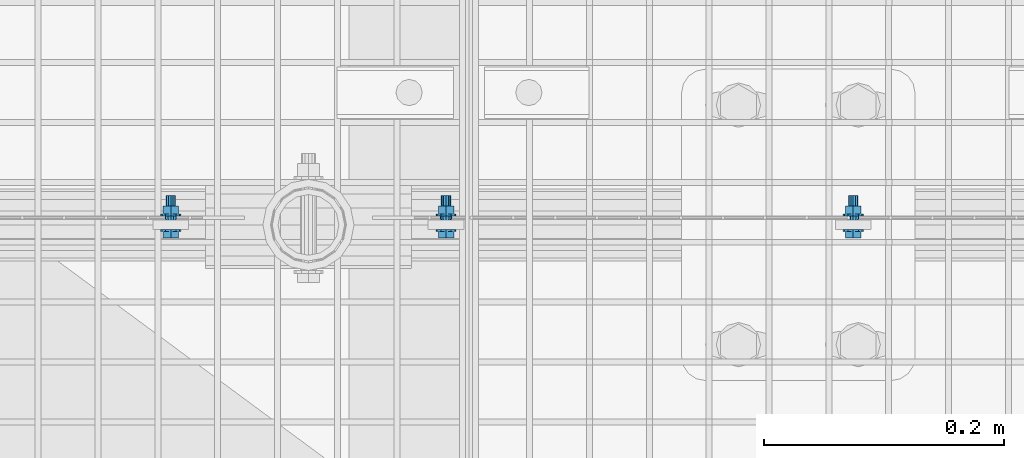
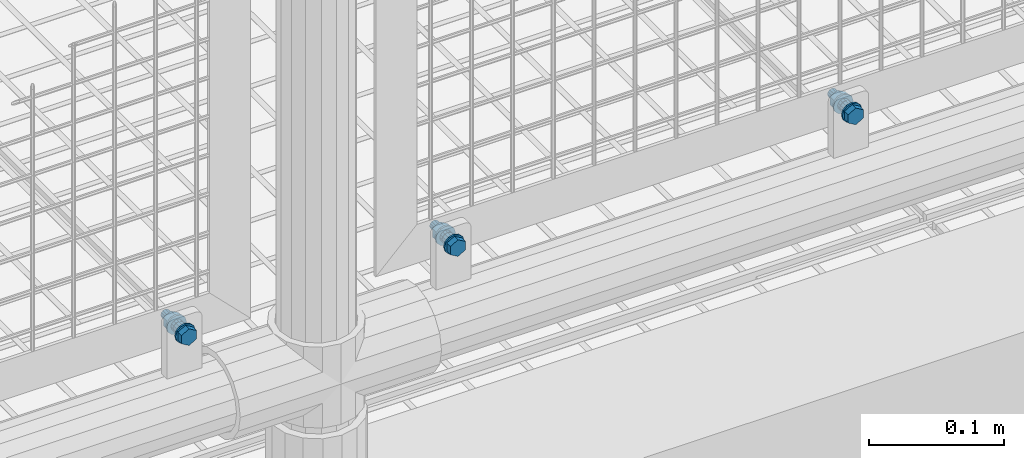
# One storey, part 73 of 1530: 3 mechanical fasteners.
"""IFC2X3 building model written with IfcOpenShell, lengths in millimetres."""

from ifc_helpers import new_model, si_unit, frame, origin_with_axes, place, context, subcontext, project, spatial, faceted_brep, source, transform, mapped, material, type_object, element, save


model = new_model("IFC2X3")

# Units and contexts
model_context = context("Model", 3, precision=1e-05, world=origin_with_axes())
body_context = subcontext(model_context, "Body", "Model", "MODEL_VIEW")
ifc_project = project(units=[si_unit("LENGTHUNIT", "METRE", prefix="MILLI"), si_unit("AREAUNIT", "SQUARE_METRE"), si_unit("VOLUMEUNIT", "CUBIC_METRE"), si_unit("MASSUNIT", "GRAM", prefix="KILO"), si_unit("TIMEUNIT", "SECOND"), si_unit("PLANEANGLEUNIT", "RADIAN"), si_unit("SOLIDANGLEUNIT", "STERADIAN"), si_unit("THERMODYNAMICTEMPERATUREUNIT", "DEGREE_CELSIUS"), si_unit("LUMINOUSINTENSITYUNIT", "LUMEN")], contexts=[model_context])

# Site, building, storey
site_placement = place(None, origin_with_axes())
site = spatial("IfcSite", under=ifc_project, at=site_placement, Name="Brattvåg", CompositionType="ELEMENT")
building_placement = place(site_placement, origin_with_axes())
building = spatial("IfcBuilding", under=site, at=building_placement, Name="Undefined", CompositionType="ELEMENT")
storey_placement = place(building_placement, origin_with_axes())
storey = spatial("IfcBuildingStorey", under=building, at=storey_placement, Name="Undefined", CompositionType="ELEMENT", Elevation=0.0)

# Mechanical fasteners
ifc_material = material(Name="8")
mechanical_fastener_type = type_object("IfcMechanicalFastenerType", Name="Bolt assembly")
shared_shape_1 = source(origin_with_axes(), body_context, "Body", "Brep", [
    faceted_brep([(7.50555349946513, -6.899000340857, 0.0), (3.75277674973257, -6.899000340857, 6.5), (-3.75277674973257, -6.899000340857, 6.5), (-7.50555349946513, -6.899000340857, 9.19165206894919e-16), (-3.75277674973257, -6.899000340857, -6.5), (3.75277674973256, -6.899000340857, -6.5), (3.75277674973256, -1.59900015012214, -6.5), (-3.75277674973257, -1.59900015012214, -6.5), (-7.50555349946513, -1.59900015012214, 9.19165206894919e-16), (-3.75277674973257, -1.59900015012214, 6.5), (3.75277674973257, -1.59900015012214, 6.5), (7.50555349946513, -1.59900015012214, 0.0), (4.0, -1.59900015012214, 0.0), (3.46410161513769, -1.59900015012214, 2.00000000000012), (1.99999999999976, -1.59900015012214, 3.46410161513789), (-4.14534392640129e-13, -1.59900015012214, 4.0), (-2.00000000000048, -1.59900015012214, 3.46410161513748), (-3.4641016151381, -1.59900015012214, 1.9999999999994), (-4.0, -1.59900015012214, -8.29068785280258e-13), (-3.46410161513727, -1.59900015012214, -2.00000000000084), (-1.99999999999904, -1.59900015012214, -3.46410161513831), (1.23916228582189e-12, -1.59900015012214, -4.0), (2.00000000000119, -1.59900015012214, -3.46410161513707), (3.46410161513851, -1.59900015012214, -1.99999999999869), (3.46410161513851, 28.4009998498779, -1.99999999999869), (2.00000000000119, 28.4009998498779, -3.46410161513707), (1.23916228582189e-12, 28.4009998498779, -4.0), (-1.99999999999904, 28.4009998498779, -3.46410161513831), (-3.46410161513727, 28.4009998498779, -2.00000000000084), (-4.0, 28.4009998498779, -8.29068785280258e-13), (-3.4641016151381, 28.4009998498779, 1.9999999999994), (-2.00000000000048, 28.4009998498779, 3.46410161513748), (-4.14534392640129e-13, 28.4009998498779, 4.0), (1.99999999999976, 28.4009998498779, 3.46410161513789), (3.46410161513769, 28.4009998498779, 2.00000000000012), (4.0, 28.4009998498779, 0.0), (8.5, -1.59900015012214, 0.0), (7.36121593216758, -1.59900015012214, 4.25000000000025), (4.24999999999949, -1.59900015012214, 7.36121593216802), (-8.80885584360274e-13, -1.59900015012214, 8.5), (-4.25000000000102, -1.59900015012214, 7.36121593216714), (-7.36121593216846, -1.59900015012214, 4.24999999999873), (-8.5, -1.59900015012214, -1.76177116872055e-12), (-7.3612159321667, -1.59900015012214, -4.25000000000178), (-4.24999999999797, -1.59900015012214, -7.3612159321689), (2.63321985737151e-12, -1.59900015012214, -8.5), (4.25000000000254, -1.59900015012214, -7.36121593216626), (7.36121593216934, -1.59900015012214, -4.24999999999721), (7.36121593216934, 0.000999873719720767, -4.24999999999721), (4.25000000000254, 0.000999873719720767, -7.36121593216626), (2.63321985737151e-12, 0.000999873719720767, -8.5), (-4.24999999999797, 0.000999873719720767, -7.3612159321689), (-7.3612159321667, 0.000999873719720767, -4.25000000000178), (-8.5, 0.000999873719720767, -1.76177116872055e-12), (-7.36121593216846, 0.000999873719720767, 4.24999999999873), (-4.25000000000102, 0.000999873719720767, 7.36121593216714), (-8.80885584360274e-13, 0.000999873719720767, 8.5), (4.24999999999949, 0.000999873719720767, 7.36121593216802), (7.36121593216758, 0.000999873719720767, 4.25000000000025), (8.5, 0.000999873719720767, 0.0), (8.5, 11.5044159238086, 0.0), (7.36121593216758, 11.5044159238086, 4.25000000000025), (4.24999999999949, 11.5044159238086, 7.36121593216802), (-8.80885584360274e-13, 11.5044159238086, 8.5), (-4.25000000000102, 11.5044159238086, 7.36121593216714), (-7.36121593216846, 11.5044159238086, 4.24999999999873), (-8.5, 11.5044159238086, -1.76177116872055e-12), (-7.3612159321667, 11.5044159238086, -4.25000000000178), (-4.24999999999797, 11.5044159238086, -7.3612159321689), (2.63321985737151e-12, 11.5044159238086, -8.5), (4.25000000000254, 11.5044159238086, -7.36121593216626), (7.36121593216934, 11.5044159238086, -4.24999999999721), (7.36121593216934, 13.1044159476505, -4.24999999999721), (4.25000000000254, 13.1044159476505, -7.36121593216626), (2.63321985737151e-12, 13.1044159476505, -8.5), (-4.24999999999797, 13.1044159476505, -7.3612159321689), (-7.3612159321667, 13.1044159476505, -4.25000000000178), (-8.5, 13.1044159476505, -1.76177116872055e-12), (-7.36121593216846, 13.1044159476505, 4.24999999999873), (-4.25000000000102, 13.1044159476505, 7.36121593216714), (-8.80885584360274e-13, 13.1044159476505, 8.5), (4.24999999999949, 13.1044159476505, 7.36121593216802), (7.36121593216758, 13.1044159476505, 4.25000000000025), (8.5, 13.1044159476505, 0.0), (7.50555349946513, 13.1044159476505, 0.0), (3.75277674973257, 13.1044159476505, 6.5), (-3.75277674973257, 13.1044159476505, 6.5), (-7.50555349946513, 13.1044159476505, 9.19165206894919e-16), (-3.75277674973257, 13.1044159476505, -6.5), (3.75277674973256, 13.1044159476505, -6.5), (3.75277674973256, 19.9044161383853, -6.5), (-3.75277674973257, 19.9044161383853, -6.5), (-7.50555349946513, 19.9044161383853, 9.19165206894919e-16), (-3.75277674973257, 19.9044161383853, 6.5), (3.75277674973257, 19.9044161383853, 6.5), (7.50555349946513, 19.9044161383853, 0.0)], [[[0, 1, 2, 3, 4, 5]], [[6, 7, 8, 9, 10, 11]], [[0, 11, 10, 1]], [[1, 10, 9, 2]], [[2, 9, 8, 3]], [[3, 8, 7, 4]], [[4, 7, 6, 5]], [[5, 6, 11, 0]], [[12, 13, 14, 15, 16, 17, 18, 19, 20, 21, 22, 23]], [[24, 25, 26, 27, 28, 29, 30, 31, 32, 33, 34, 35]], [[12, 35, 34, 13]], [[13, 34, 33, 14]], [[14, 33, 32, 15]], [[15, 32, 31, 16]], [[16, 31, 30, 17]], [[17, 30, 29, 18]], [[18, 29, 28, 19]], [[19, 28, 27, 20]], [[20, 27, 26, 21]], [[21, 26, 25, 22]], [[22, 25, 24, 23]], [[23, 24, 35, 12]], [[36, 37, 38, 39, 40, 41, 42, 43, 44, 45, 46, 47]], [[48, 49, 50, 51, 52, 53, 54, 55, 56, 57, 58, 59]], [[36, 59, 58, 37]], [[37, 58, 57, 38]], [[38, 57, 56, 39]], [[39, 56, 55, 40]], [[40, 55, 54, 41]], [[41, 54, 53, 42]], [[42, 53, 52, 43]], [[43, 52, 51, 44]], [[44, 51, 50, 45]], [[45, 50, 49, 46]], [[46, 49, 48, 47]], [[47, 48, 59, 36]], [[60, 61, 62, 63, 64, 65, 66, 67, 68, 69, 70, 71]], [[72, 73, 74, 75, 76, 77, 78, 79, 80, 81, 82, 83]], [[60, 83, 82, 61]], [[61, 82, 81, 62]], [[62, 81, 80, 63]], [[63, 80, 79, 64]], [[64, 79, 78, 65]], [[65, 78, 77, 66]], [[66, 77, 76, 67]], [[67, 76, 75, 68]], [[68, 75, 74, 69]], [[69, 74, 73, 70]], [[70, 73, 72, 71]], [[71, 72, 83, 60]], [[84, 85, 86, 87, 88, 89]], [[90, 91, 92, 93, 94, 95]], [[84, 95, 94, 85]], [[85, 94, 93, 86]], [[86, 93, 92, 87]], [[87, 92, 91, 88]], [[88, 91, 90, 89]], [[89, 90, 95, 84]]]),
    faceted_brep([(5.0, 0.100999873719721, 0.0), (4.33012701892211, 0.100999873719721, 2.50000000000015), (2.4999999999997, 0.100999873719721, 4.33012701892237), (-5.18167990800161e-13, 0.100999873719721, 5.0), (-2.5000000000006, 0.100999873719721, 4.33012701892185), (-4.33012701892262, 0.100999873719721, 2.49999999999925), (-5.0, 0.100999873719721, -1.03633598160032e-12), (-4.33012701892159, 0.100999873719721, -2.50000000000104), (-2.49999999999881, 0.100999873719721, -4.33012701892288), (1.54895285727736e-12, 0.100999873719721, -5.0), (2.50000000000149, 0.100999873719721, -4.33012701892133), (4.33012701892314, 0.100999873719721, -2.49999999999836), (4.33012701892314, 8.10099988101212, -2.49999999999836), (2.50000000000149, 8.10099988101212, -4.33012701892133), (1.54895285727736e-12, 8.10099988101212, -5.0), (-2.49999999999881, 8.10099988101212, -4.33012701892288), (-4.33012701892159, 8.10099988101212, -2.50000000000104), (-5.0, 8.10099988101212, -1.03633598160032e-12), (-4.33012701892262, 8.10099988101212, 2.49999999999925), (-2.5000000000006, 8.10099988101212, 4.33012701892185), (-5.18167990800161e-13, 8.10099988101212, 5.0), (2.4999999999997, 8.10099988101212, 4.33012701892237), (4.33012701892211, 8.10099988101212, 2.50000000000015), (5.0, 8.10099988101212, 0.0), (5.0, 8.40441592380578, 0.0), (4.33012701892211, 8.40441592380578, 2.50000000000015), (2.4999999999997, 8.40441592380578, 4.33012701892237), (-5.18167990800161e-13, 8.40441592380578, 5.0), (-2.5000000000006, 8.40441592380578, 4.33012701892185), (-4.33012701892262, 8.40441592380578, 2.49999999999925), (-5.0, 8.40441592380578, -1.03633598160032e-12), (-4.33012701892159, 8.40441592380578, -2.50000000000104), (-2.49999999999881, 8.40441592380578, -4.33012701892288), (1.54895285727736e-12, 8.40441592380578, -5.0), (2.50000000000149, 8.40441592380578, -4.33012701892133), (4.33012701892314, 8.40441592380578, -2.49999999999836), (4.33012701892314, 11.5044159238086, -2.49999999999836), (2.50000000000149, 11.5044159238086, -4.33012701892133), (1.54895285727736e-12, 11.5044159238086, -5.0), (-2.49999999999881, 11.5044159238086, -4.33012701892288), (-4.33012701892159, 11.5044159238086, -2.50000000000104), (-5.0, 11.5044159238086, -1.03633598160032e-12), (-4.33012701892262, 11.5044159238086, 2.49999999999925), (-2.5000000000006, 11.5044159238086, 4.33012701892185), (-5.18167990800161e-13, 11.5044159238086, 5.0), (2.4999999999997, 11.5044159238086, 4.33012701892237), (4.33012701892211, 11.5044159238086, 2.50000000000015), (5.0, 11.5044159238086, 0.0)], [[[0, 1, 2, 3, 4, 5, 6, 7, 8, 9, 10, 11]], [[12, 13, 14, 15, 16, 17, 18, 19, 20, 21, 22, 23]], [[0, 23, 22, 1]], [[1, 22, 21, 2]], [[2, 21, 20, 3]], [[3, 20, 19, 4]], [[4, 19, 18, 5]], [[5, 18, 17, 6]], [[6, 17, 16, 7]], [[7, 16, 15, 8]], [[8, 15, 14, 9]], [[9, 14, 13, 10]], [[10, 13, 12, 11]], [[11, 12, 23, 0]], [[24, 25, 26, 27, 28, 29, 30, 31, 32, 33, 34, 35]], [[36, 37, 38, 39, 40, 41, 42, 43, 44, 45, 46, 47]], [[24, 47, 46, 25]], [[25, 46, 45, 26]], [[26, 45, 44, 27]], [[27, 44, 43, 28]], [[28, 43, 42, 29]], [[29, 42, 41, 30]], [[30, 41, 40, 31]], [[31, 40, 39, 32]], [[32, 39, 38, 33]], [[33, 38, 37, 34]], [[34, 37, 36, 35]], [[35, 36, 47, 24]]]),
])
mechanical_fastener_1_placement = place(storey_placement, frame((2335.85060882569, 7660.49843978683, 352.299672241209), z_axis=(-1.0, 1.99999855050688e-09, 0.0), x_axis=(0.0, 0.0, 1.0)))
element("IfcMechanicalFastener", 1, at=mechanical_fastener_1_placement, inside=storey, type_object=mechanical_fastener_type, material=ifc_material, Name="Bolt assembly", NominalDiameter=8.0, NominalLength=30.0, context=body_context, shape_type="MappedRepresentation", body=[
    mapped(shared_shape_1, transform((0.0, 0.0, 0.0))),
])
shared_shape_2 = source(origin_with_axes(), body_context, "Body", "Brep", [
    faceted_brep([(7.50555349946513, -6.899000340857, 0.0), (3.75277674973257, -6.899000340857, 6.5), (-3.75277674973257, -6.899000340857, 6.5), (-7.50555349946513, -6.899000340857, 9.19165206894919e-16), (-3.75277674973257, -6.899000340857, -6.5), (3.75277674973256, -6.899000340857, -6.5), (3.75277674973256, -1.59900015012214, -6.5), (-3.75277674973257, -1.59900015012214, -6.5), (-7.50555349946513, -1.59900015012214, 9.19165206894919e-16), (-3.75277674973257, -1.59900015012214, 6.5), (3.75277674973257, -1.59900015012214, 6.5), (7.50555349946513, -1.59900015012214, 0.0), (4.0, -1.59900015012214, 0.0), (3.46410161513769, -1.59900015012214, 2.00000000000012), (1.99999999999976, -1.59900015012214, 3.46410161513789), (-4.14534392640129e-13, -1.59900015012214, 4.0), (-2.00000000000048, -1.59900015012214, 3.46410161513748), (-3.4641016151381, -1.59900015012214, 1.9999999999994), (-4.0, -1.59900015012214, -8.29068785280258e-13), (-3.46410161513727, -1.59900015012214, -2.00000000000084), (-1.99999999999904, -1.59900015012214, -3.46410161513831), (1.23916228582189e-12, -1.59900015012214, -4.0), (2.00000000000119, -1.59900015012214, -3.46410161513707), (3.46410161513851, -1.59900015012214, -1.99999999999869), (3.46410161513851, 28.4009998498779, -1.99999999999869), (2.00000000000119, 28.4009998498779, -3.46410161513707), (1.23916228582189e-12, 28.4009998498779, -4.0), (-1.99999999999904, 28.4009998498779, -3.46410161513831), (-3.46410161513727, 28.4009998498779, -2.00000000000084), (-4.0, 28.4009998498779, -8.29068785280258e-13), (-3.4641016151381, 28.4009998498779, 1.9999999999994), (-2.00000000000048, 28.4009998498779, 3.46410161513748), (-4.14534392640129e-13, 28.4009998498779, 4.0), (1.99999999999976, 28.4009998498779, 3.46410161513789), (3.46410161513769, 28.4009998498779, 2.00000000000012), (4.0, 28.4009998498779, 0.0), (8.5, -1.59900015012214, 0.0), (7.36121593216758, -1.59900015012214, 4.25000000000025), (4.24999999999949, -1.59900015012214, 7.36121593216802), (-8.80885584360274e-13, -1.59900015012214, 8.5), (-4.25000000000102, -1.59900015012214, 7.36121593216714), (-7.36121593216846, -1.59900015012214, 4.24999999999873), (-8.5, -1.59900015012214, -1.76177116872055e-12), (-7.3612159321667, -1.59900015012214, -4.25000000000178), (-4.24999999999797, -1.59900015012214, -7.3612159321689), (2.63321985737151e-12, -1.59900015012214, -8.5), (4.25000000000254, -1.59900015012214, -7.36121593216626), (7.36121593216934, -1.59900015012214, -4.24999999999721), (7.36121593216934, 0.000999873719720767, -4.24999999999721), (4.25000000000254, 0.000999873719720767, -7.36121593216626), (2.63321985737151e-12, 0.000999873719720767, -8.5), (-4.24999999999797, 0.000999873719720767, -7.3612159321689), (-7.3612159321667, 0.000999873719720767, -4.25000000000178), (-8.5, 0.000999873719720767, -1.76177116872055e-12), (-7.36121593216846, 0.000999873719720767, 4.24999999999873), (-4.25000000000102, 0.000999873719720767, 7.36121593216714), (-8.80885584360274e-13, 0.000999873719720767, 8.5), (4.24999999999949, 0.000999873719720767, 7.36121593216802), (7.36121593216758, 0.000999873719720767, 4.25000000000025), (8.5, 0.000999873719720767, 0.0), (8.5, 11.5039814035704, 0.0), (7.36121593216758, 11.5039814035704, 4.25000000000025), (4.24999999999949, 11.5039814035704, 7.36121593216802), (-8.80885584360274e-13, 11.5039814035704, 8.5), (-4.25000000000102, 11.5039814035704, 7.36121593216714), (-7.36121593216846, 11.5039814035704, 4.24999999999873), (-8.5, 11.5039814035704, -1.76177116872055e-12), (-7.3612159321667, 11.5039814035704, -4.25000000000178), (-4.24999999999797, 11.5039814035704, -7.3612159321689), (2.63321985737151e-12, 11.5039814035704, -8.5), (4.25000000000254, 11.5039814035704, -7.36121593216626), (7.36121593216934, 11.5039814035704, -4.24999999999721), (7.36121593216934, 13.1039814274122, -4.24999999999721), (4.25000000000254, 13.1039814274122, -7.36121593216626), (2.63321985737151e-12, 13.1039814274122, -8.5), (-4.24999999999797, 13.1039814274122, -7.3612159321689), (-7.3612159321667, 13.1039814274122, -4.25000000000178), (-8.5, 13.1039814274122, -1.76177116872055e-12), (-7.36121593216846, 13.1039814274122, 4.24999999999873), (-4.25000000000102, 13.1039814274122, 7.36121593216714), (-8.80885584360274e-13, 13.1039814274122, 8.5), (4.24999999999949, 13.1039814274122, 7.36121593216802), (7.36121593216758, 13.1039814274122, 4.25000000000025), (8.5, 13.1039814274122, 0.0), (7.50555349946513, 13.1039814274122, 0.0), (3.75277674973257, 13.1039814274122, 6.5), (-3.75277674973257, 13.1039814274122, 6.5), (-7.50555349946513, 13.1039814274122, 9.19165206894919e-16), (-3.75277674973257, 13.1039814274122, -6.5), (3.75277674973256, 13.1039814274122, -6.5), (3.75277674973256, 19.9039816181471, -6.5), (-3.75277674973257, 19.9039816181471, -6.5), (-7.50555349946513, 19.9039816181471, 9.19165206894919e-16), (-3.75277674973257, 19.9039816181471, 6.5), (3.75277674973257, 19.9039816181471, 6.5), (7.50555349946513, 19.9039816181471, 0.0)], [[[0, 1, 2, 3, 4, 5]], [[6, 7, 8, 9, 10, 11]], [[0, 11, 10, 1]], [[1, 10, 9, 2]], [[2, 9, 8, 3]], [[3, 8, 7, 4]], [[4, 7, 6, 5]], [[5, 6, 11, 0]], [[12, 13, 14, 15, 16, 17, 18, 19, 20, 21, 22, 23]], [[24, 25, 26, 27, 28, 29, 30, 31, 32, 33, 34, 35]], [[12, 35, 34, 13]], [[13, 34, 33, 14]], [[14, 33, 32, 15]], [[15, 32, 31, 16]], [[16, 31, 30, 17]], [[17, 30, 29, 18]], [[18, 29, 28, 19]], [[19, 28, 27, 20]], [[20, 27, 26, 21]], [[21, 26, 25, 22]], [[22, 25, 24, 23]], [[23, 24, 35, 12]], [[36, 37, 38, 39, 40, 41, 42, 43, 44, 45, 46, 47]], [[48, 49, 50, 51, 52, 53, 54, 55, 56, 57, 58, 59]], [[36, 59, 58, 37]], [[37, 58, 57, 38]], [[38, 57, 56, 39]], [[39, 56, 55, 40]], [[40, 55, 54, 41]], [[41, 54, 53, 42]], [[42, 53, 52, 43]], [[43, 52, 51, 44]], [[44, 51, 50, 45]], [[45, 50, 49, 46]], [[46, 49, 48, 47]], [[47, 48, 59, 36]], [[60, 61, 62, 63, 64, 65, 66, 67, 68, 69, 70, 71]], [[72, 73, 74, 75, 76, 77, 78, 79, 80, 81, 82, 83]], [[60, 83, 82, 61]], [[61, 82, 81, 62]], [[62, 81, 80, 63]], [[63, 80, 79, 64]], [[64, 79, 78, 65]], [[65, 78, 77, 66]], [[66, 77, 76, 67]], [[67, 76, 75, 68]], [[68, 75, 74, 69]], [[69, 74, 73, 70]], [[70, 73, 72, 71]], [[71, 72, 83, 60]], [[84, 85, 86, 87, 88, 89]], [[90, 91, 92, 93, 94, 95]], [[84, 95, 94, 85]], [[85, 94, 93, 86]], [[86, 93, 92, 87]], [[87, 92, 91, 88]], [[88, 91, 90, 89]], [[89, 90, 95, 84]]]),
    faceted_brep([(5.0, 0.100999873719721, 0.0), (4.33012701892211, 0.100999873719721, 2.50000000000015), (2.4999999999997, 0.100999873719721, 4.33012701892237), (-5.18167990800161e-13, 0.100999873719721, 5.0), (-2.5000000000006, 0.100999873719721, 4.33012701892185), (-4.33012701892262, 0.100999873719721, 2.49999999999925), (-5.0, 0.100999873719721, -1.03633598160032e-12), (-4.33012701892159, 0.100999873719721, -2.50000000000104), (-2.49999999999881, 0.100999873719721, -4.33012701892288), (1.54895285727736e-12, 0.100999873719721, -5.0), (2.50000000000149, 0.100999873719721, -4.33012701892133), (4.33012701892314, 0.100999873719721, -2.49999999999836), (4.33012701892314, 8.10099988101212, -2.49999999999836), (2.50000000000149, 8.10099988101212, -4.33012701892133), (1.54895285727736e-12, 8.10099988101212, -5.0), (-2.49999999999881, 8.10099988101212, -4.33012701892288), (-4.33012701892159, 8.10099988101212, -2.50000000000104), (-5.0, 8.10099988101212, -1.03633598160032e-12), (-4.33012701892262, 8.10099988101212, 2.49999999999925), (-2.5000000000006, 8.10099988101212, 4.33012701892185), (-5.18167990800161e-13, 8.10099988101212, 5.0), (2.4999999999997, 8.10099988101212, 4.33012701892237), (4.33012701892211, 8.10099988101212, 2.50000000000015), (5.0, 8.10099988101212, 0.0), (5.0, 8.40398140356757, 0.0), (4.33012701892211, 8.40398140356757, 2.50000000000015), (2.4999999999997, 8.40398140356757, 4.33012701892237), (-5.18167990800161e-13, 8.40398140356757, 5.0), (-2.5000000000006, 8.40398140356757, 4.33012701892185), (-4.33012701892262, 8.40398140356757, 2.49999999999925), (-5.0, 8.40398140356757, -1.03633598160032e-12), (-4.33012701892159, 8.40398140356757, -2.50000000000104), (-2.49999999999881, 8.40398140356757, -4.33012701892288), (1.54895285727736e-12, 8.40398140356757, -5.0), (2.50000000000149, 8.40398140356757, -4.33012701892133), (4.33012701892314, 8.40398140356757, -2.49999999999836), (4.33012701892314, 11.5039814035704, -2.49999999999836), (2.50000000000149, 11.5039814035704, -4.33012701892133), (1.54895285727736e-12, 11.5039814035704, -5.0), (-2.49999999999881, 11.5039814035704, -4.33012701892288), (-4.33012701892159, 11.5039814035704, -2.50000000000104), (-5.0, 11.5039814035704, -1.03633598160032e-12), (-4.33012701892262, 11.5039814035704, 2.49999999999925), (-2.5000000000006, 11.5039814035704, 4.33012701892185), (-5.18167990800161e-13, 11.5039814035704, 5.0), (2.4999999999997, 11.5039814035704, 4.33012701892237), (4.33012701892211, 11.5039814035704, 2.50000000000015), (5.0, 11.5039814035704, 0.0)], [[[0, 1, 2, 3, 4, 5, 6, 7, 8, 9, 10, 11]], [[12, 13, 14, 15, 16, 17, 18, 19, 20, 21, 22, 23]], [[0, 23, 22, 1]], [[1, 22, 21, 2]], [[2, 21, 20, 3]], [[3, 20, 19, 4]], [[4, 19, 18, 5]], [[5, 18, 17, 6]], [[6, 17, 16, 7]], [[7, 16, 15, 8]], [[8, 15, 14, 9]], [[9, 14, 13, 10]], [[10, 13, 12, 11]], [[11, 12, 23, 0]], [[24, 25, 26, 27, 28, 29, 30, 31, 32, 33, 34, 35]], [[36, 37, 38, 39, 40, 41, 42, 43, 44, 45, 46, 47]], [[24, 47, 46, 25]], [[25, 46, 45, 26]], [[26, 45, 44, 27]], [[27, 44, 43, 28]], [[28, 43, 42, 29]], [[29, 42, 41, 30]], [[30, 41, 40, 31]], [[31, 40, 39, 32]], [[32, 39, 38, 33]], [[33, 38, 37, 34]], [[34, 37, 36, 35]], [[35, 36, 47, 24]]]),
])
mechanical_fastener_2_placement = place(storey_placement, frame((2675.85076141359, 7660.49843978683, 352.299672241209), z_axis=(-1.0, 1.99999855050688e-09, 0.0), x_axis=(0.0, 0.0, 1.0)))
element("IfcMechanicalFastener", 2, at=mechanical_fastener_2_placement, inside=storey, type_object=mechanical_fastener_type, material=ifc_material, Name="Bolt assembly", NominalDiameter=8.0, NominalLength=30.0, context=body_context, shape_type="MappedRepresentation", body=[
    mapped(shared_shape_2, transform((0.0, 0.0, 0.0))),
])
shared_shape_3 = source(origin_with_axes(), body_context, "Body", "Brep", [
    faceted_brep([(7.50555349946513, -6.899000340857, 0.0), (3.75277674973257, -6.899000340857, 6.5), (-3.75277674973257, -6.899000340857, 6.5), (-7.50555349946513, -6.899000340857, 9.19165206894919e-16), (-3.75277674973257, -6.899000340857, -6.5), (3.75277674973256, -6.899000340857, -6.5), (3.75277674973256, -1.59900015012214, -6.5), (-3.75277674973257, -1.59900015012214, -6.5), (-7.50555349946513, -1.59900015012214, 9.19165206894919e-16), (-3.75277674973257, -1.59900015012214, 6.5), (3.75277674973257, -1.59900015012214, 6.5), (7.50555349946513, -1.59900015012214, 0.0), (4.0, -1.59900015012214, 0.0), (3.46410161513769, -1.59900015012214, 2.00000000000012), (1.99999999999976, -1.59900015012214, 3.46410161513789), (-4.14534392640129e-13, -1.59900015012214, 4.0), (-2.00000000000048, -1.59900015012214, 3.46410161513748), (-3.4641016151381, -1.59900015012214, 1.9999999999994), (-4.0, -1.59900015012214, -8.29068785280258e-13), (-3.46410161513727, -1.59900015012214, -2.00000000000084), (-1.99999999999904, -1.59900015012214, -3.46410161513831), (1.23916228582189e-12, -1.59900015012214, -4.0), (2.00000000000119, -1.59900015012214, -3.46410161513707), (3.46410161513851, -1.59900015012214, -1.99999999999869), (3.46410161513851, 28.4009998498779, -1.99999999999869), (2.00000000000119, 28.4009998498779, -3.46410161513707), (1.23916228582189e-12, 28.4009998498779, -4.0), (-1.99999999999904, 28.4009998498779, -3.46410161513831), (-3.46410161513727, 28.4009998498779, -2.00000000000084), (-4.0, 28.4009998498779, -8.29068785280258e-13), (-3.4641016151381, 28.4009998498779, 1.9999999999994), (-2.00000000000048, 28.4009998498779, 3.46410161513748), (-4.14534392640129e-13, 28.4009998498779, 4.0), (1.99999999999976, 28.4009998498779, 3.46410161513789), (3.46410161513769, 28.4009998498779, 2.00000000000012), (4.0, 28.4009998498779, 0.0), (8.5, -1.59900015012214, 0.0), (7.36121593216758, -1.59900015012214, 4.25000000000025), (4.24999999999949, -1.59900015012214, 7.36121593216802), (-8.80885584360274e-13, -1.59900015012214, 8.5), (-4.25000000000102, -1.59900015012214, 7.36121593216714), (-7.36121593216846, -1.59900015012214, 4.24999999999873), (-8.5, -1.59900015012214, -1.76177116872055e-12), (-7.3612159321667, -1.59900015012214, -4.25000000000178), (-4.24999999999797, -1.59900015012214, -7.3612159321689), (2.63321985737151e-12, -1.59900015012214, -8.5), (4.25000000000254, -1.59900015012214, -7.36121593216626), (7.36121593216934, -1.59900015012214, -4.24999999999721), (7.36121593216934, 0.000999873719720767, -4.24999999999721), (4.25000000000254, 0.000999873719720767, -7.36121593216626), (2.63321985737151e-12, 0.000999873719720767, -8.5), (-4.24999999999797, 0.000999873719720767, -7.3612159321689), (-7.3612159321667, 0.000999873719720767, -4.25000000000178), (-8.5, 0.000999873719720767, -1.76177116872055e-12), (-7.36121593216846, 0.000999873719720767, 4.24999999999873), (-4.25000000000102, 0.000999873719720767, 7.36121593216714), (-8.80885584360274e-13, 0.000999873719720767, 8.5), (4.24999999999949, 0.000999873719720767, 7.36121593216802), (7.36121593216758, 0.000999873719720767, 4.25000000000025), (8.5, 0.000999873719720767, 0.0), (8.5, 11.5022147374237, 0.0), (7.36121593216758, 11.5022147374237, 4.25000000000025), (4.24999999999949, 11.5022147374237, 7.36121593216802), (-8.80885584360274e-13, 11.5022147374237, 8.5), (-4.25000000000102, 11.5022147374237, 7.36121593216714), (-7.36121593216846, 11.5022147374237, 4.24999999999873), (-8.5, 11.5022147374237, -1.76177116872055e-12), (-7.3612159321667, 11.5022147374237, -4.25000000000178), (-4.24999999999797, 11.5022147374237, -7.3612159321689), (2.63321985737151e-12, 11.5022147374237, -8.5), (4.25000000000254, 11.5022147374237, -7.36121593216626), (7.36121593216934, 11.5022147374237, -4.24999999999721), (7.36121593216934, 13.1022147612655, -4.24999999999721), (4.25000000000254, 13.1022147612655, -7.36121593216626), (2.63321985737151e-12, 13.1022147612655, -8.5), (-4.24999999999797, 13.1022147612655, -7.3612159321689), (-7.3612159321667, 13.1022147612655, -4.25000000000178), (-8.5, 13.1022147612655, -1.76177116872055e-12), (-7.36121593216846, 13.1022147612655, 4.24999999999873), (-4.25000000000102, 13.1022147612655, 7.36121593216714), (-8.80885584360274e-13, 13.1022147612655, 8.5), (4.24999999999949, 13.1022147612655, 7.36121593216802), (7.36121593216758, 13.1022147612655, 4.25000000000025), (8.5, 13.1022147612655, 0.0), (7.50555349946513, 13.1022147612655, 0.0), (3.75277674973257, 13.1022147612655, 6.5), (-3.75277674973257, 13.1022147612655, 6.5), (-7.50555349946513, 13.1022147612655, 9.19165206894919e-16), (-3.75277674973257, 13.1022147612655, -6.5), (3.75277674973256, 13.1022147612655, -6.5), (3.75277674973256, 19.9022149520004, -6.5), (-3.75277674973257, 19.9022149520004, -6.5), (-7.50555349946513, 19.9022149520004, 9.19165206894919e-16), (-3.75277674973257, 19.9022149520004, 6.5), (3.75277674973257, 19.9022149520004, 6.5), (7.50555349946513, 19.9022149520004, 0.0)], [[[0, 1, 2, 3, 4, 5]], [[6, 7, 8, 9, 10, 11]], [[0, 11, 10, 1]], [[1, 10, 9, 2]], [[2, 9, 8, 3]], [[3, 8, 7, 4]], [[4, 7, 6, 5]], [[5, 6, 11, 0]], [[12, 13, 14, 15, 16, 17, 18, 19, 20, 21, 22, 23]], [[24, 25, 26, 27, 28, 29, 30, 31, 32, 33, 34, 35]], [[12, 35, 34, 13]], [[13, 34, 33, 14]], [[14, 33, 32, 15]], [[15, 32, 31, 16]], [[16, 31, 30, 17]], [[17, 30, 29, 18]], [[18, 29, 28, 19]], [[19, 28, 27, 20]], [[20, 27, 26, 21]], [[21, 26, 25, 22]], [[22, 25, 24, 23]], [[23, 24, 35, 12]], [[36, 37, 38, 39, 40, 41, 42, 43, 44, 45, 46, 47]], [[48, 49, 50, 51, 52, 53, 54, 55, 56, 57, 58, 59]], [[36, 59, 58, 37]], [[37, 58, 57, 38]], [[38, 57, 56, 39]], [[39, 56, 55, 40]], [[40, 55, 54, 41]], [[41, 54, 53, 42]], [[42, 53, 52, 43]], [[43, 52, 51, 44]], [[44, 51, 50, 45]], [[45, 50, 49, 46]], [[46, 49, 48, 47]], [[47, 48, 59, 36]], [[60, 61, 62, 63, 64, 65, 66, 67, 68, 69, 70, 71]], [[72, 73, 74, 75, 76, 77, 78, 79, 80, 81, 82, 83]], [[60, 83, 82, 61]], [[61, 82, 81, 62]], [[62, 81, 80, 63]], [[63, 80, 79, 64]], [[64, 79, 78, 65]], [[65, 78, 77, 66]], [[66, 77, 76, 67]], [[67, 76, 75, 68]], [[68, 75, 74, 69]], [[69, 74, 73, 70]], [[70, 73, 72, 71]], [[71, 72, 83, 60]], [[84, 85, 86, 87, 88, 89]], [[90, 91, 92, 93, 94, 95]], [[84, 95, 94, 85]], [[85, 94, 93, 86]], [[86, 93, 92, 87]], [[87, 92, 91, 88]], [[88, 91, 90, 89]], [[89, 90, 95, 84]]]),
    faceted_brep([(5.0, 0.100999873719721, 0.0), (4.33012701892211, 0.100999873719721, 2.50000000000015), (2.4999999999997, 0.100999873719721, 4.33012701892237), (-5.18167990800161e-13, 0.100999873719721, 5.0), (-2.5000000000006, 0.100999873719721, 4.33012701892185), (-4.33012701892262, 0.100999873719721, 2.49999999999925), (-5.0, 0.100999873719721, -1.03633598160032e-12), (-4.33012701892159, 0.100999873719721, -2.50000000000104), (-2.49999999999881, 0.100999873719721, -4.33012701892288), (1.54895285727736e-12, 0.100999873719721, -5.0), (2.50000000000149, 0.100999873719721, -4.33012701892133), (4.33012701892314, 0.100999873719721, -2.49999999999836), (4.33012701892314, 8.10099988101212, -2.49999999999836), (2.50000000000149, 8.10099988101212, -4.33012701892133), (1.54895285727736e-12, 8.10099988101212, -5.0), (-2.49999999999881, 8.10099988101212, -4.33012701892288), (-4.33012701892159, 8.10099988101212, -2.50000000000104), (-5.0, 8.10099988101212, -1.03633598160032e-12), (-4.33012701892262, 8.10099988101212, 2.49999999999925), (-2.5000000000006, 8.10099988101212, 4.33012701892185), (-5.18167990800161e-13, 8.10099988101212, 5.0), (2.4999999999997, 8.10099988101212, 4.33012701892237), (4.33012701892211, 8.10099988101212, 2.50000000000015), (5.0, 8.10099988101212, 0.0), (5.0, 8.40221473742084, 0.0), (4.33012701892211, 8.40221473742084, 2.50000000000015), (2.4999999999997, 8.40221473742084, 4.33012701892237), (-5.18167990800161e-13, 8.40221473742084, 5.0), (-2.5000000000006, 8.40221473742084, 4.33012701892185), (-4.33012701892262, 8.40221473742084, 2.49999999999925), (-5.0, 8.40221473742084, -1.03633598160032e-12), (-4.33012701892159, 8.40221473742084, -2.50000000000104), (-2.49999999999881, 8.40221473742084, -4.33012701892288), (1.54895285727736e-12, 8.40221473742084, -5.0), (2.50000000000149, 8.40221473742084, -4.33012701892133), (4.33012701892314, 8.40221473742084, -2.49999999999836), (4.33012701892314, 11.5022147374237, -2.49999999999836), (2.50000000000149, 11.5022147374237, -4.33012701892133), (1.54895285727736e-12, 11.5022147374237, -5.0), (-2.49999999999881, 11.5022147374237, -4.33012701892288), (-4.33012701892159, 11.5022147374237, -2.50000000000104), (-5.0, 11.5022147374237, -1.03633598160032e-12), (-4.33012701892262, 11.5022147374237, 2.49999999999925), (-2.5000000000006, 11.5022147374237, 4.33012701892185), (-5.18167990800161e-13, 11.5022147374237, 5.0), (2.4999999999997, 11.5022147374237, 4.33012701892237), (4.33012701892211, 11.5022147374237, 2.50000000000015), (5.0, 11.5022147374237, 0.0)], [[[0, 1, 2, 3, 4, 5, 6, 7, 8, 9, 10, 11]], [[12, 13, 14, 15, 16, 17, 18, 19, 20, 21, 22, 23]], [[0, 23, 22, 1]], [[1, 22, 21, 2]], [[2, 21, 20, 3]], [[3, 20, 19, 4]], [[4, 19, 18, 5]], [[5, 18, 17, 6]], [[6, 17, 16, 7]], [[7, 16, 15, 8]], [[8, 15, 14, 9]], [[9, 14, 13, 10]], [[10, 13, 12, 11]], [[11, 12, 23, 0]], [[24, 25, 26, 27, 28, 29, 30, 31, 32, 33, 34, 35]], [[36, 37, 38, 39, 40, 41, 42, 43, 44, 45, 46, 47]], [[24, 47, 46, 25]], [[25, 46, 45, 26]], [[26, 45, 44, 27]], [[27, 44, 43, 28]], [[28, 43, 42, 29]], [[29, 42, 41, 30]], [[30, 41, 40, 31]], [[31, 40, 39, 32]], [[32, 39, 38, 33]], [[33, 38, 37, 34]], [[34, 37, 36, 35]], [[35, 36, 47, 24]]]),
])
mechanical_fastener_3_placement = place(storey_placement, frame((2105.99974822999, 7660.49888992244, 352.300205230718), z_axis=(-1.0, 1.99999855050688e-09, 0.0), x_axis=(0.0, 0.0, 1.0)))
element("IfcMechanicalFastener", 3, at=mechanical_fastener_3_placement, inside=storey, type_object=mechanical_fastener_type, material=ifc_material, Name="Bolt assembly", NominalDiameter=8.0, NominalLength=30.0, context=body_context, shape_type="MappedRepresentation", body=[
    mapped(shared_shape_3, transform((0.0, 0.0, 0.0))),
])

save(model, "model.ifc")
